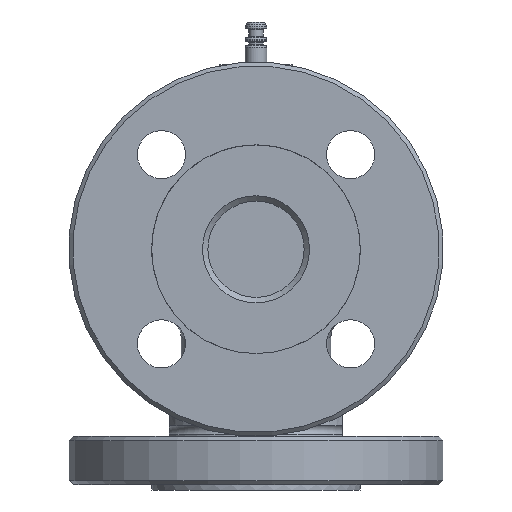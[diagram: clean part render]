
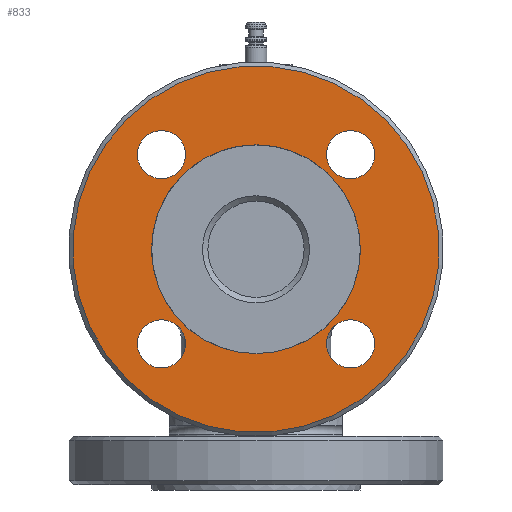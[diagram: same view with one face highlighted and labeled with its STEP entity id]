
A CAD part, left-side view. The second image highlights one B-rep face of the part: STEP entity #833.
In plain terms, the highlighted planar face has unit normal (-1, 0, 0).
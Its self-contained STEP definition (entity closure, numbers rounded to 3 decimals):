
#833=ADVANCED_FACE('',(#1166,#1167,#1168,#1169,#1170,#1171),#922,.T.);
#922=PLANE('',#3725);
#1166=FACE_BOUND('',#1546,.T.);
#1167=FACE_BOUND('',#1547,.T.);
#1168=FACE_BOUND('',#1548,.T.);
#1169=FACE_BOUND('',#1549,.T.);
#1170=FACE_BOUND('',#1550,.T.);
#1171=FACE_BOUND('',#1551,.T.);
#1546=EDGE_LOOP('',(#2302));
#1547=EDGE_LOOP('',(#2303));
#1548=EDGE_LOOP('',(#2304));
#1549=EDGE_LOOP('',(#2305));
#1550=EDGE_LOOP('',(#2306));
#1551=EDGE_LOOP('',(#2307));
#2302=ORIENTED_EDGE('',*,*,#3076,.T.);
#2303=ORIENTED_EDGE('',*,*,#3077,.F.);
#2304=ORIENTED_EDGE('',*,*,#3078,.T.);
#2305=ORIENTED_EDGE('',*,*,#3079,.T.);
#2306=ORIENTED_EDGE('',*,*,#3080,.T.);
#2307=ORIENTED_EDGE('',*,*,#3081,.T.);
#2685=VERTEX_POINT('',#11631);
#2686=VERTEX_POINT('',#11633);
#2687=VERTEX_POINT('',#11635);
#2688=VERTEX_POINT('',#11637);
#2689=VERTEX_POINT('',#11639);
#2690=VERTEX_POINT('',#11641);
#3076=EDGE_CURVE('',#2685,#2685,#3316,.T.);
#3077=EDGE_CURVE('',#2686,#2686,#3317,.T.);
#3078=EDGE_CURVE('',#2687,#2687,#3318,.T.);
#3079=EDGE_CURVE('',#2688,#2688,#3319,.T.);
#3080=EDGE_CURVE('',#2689,#2689,#3320,.T.);
#3081=EDGE_CURVE('',#2690,#2690,#3321,.T.);
#3316=CIRCLE('',#3719,68.5);
#3317=CIRCLE('',#3720,39.);
#3318=CIRCLE('',#3721,9.);
#3319=CIRCLE('',#3722,9.);
#3320=CIRCLE('',#3723,9.);
#3321=CIRCLE('',#3724,9.);
#3719=AXIS2_PLACEMENT_3D('',#11630,#4589,#4590);
#3720=AXIS2_PLACEMENT_3D('',#11632,#4591,#4592);
#3721=AXIS2_PLACEMENT_3D('',#11634,#4593,#4594);
#3722=AXIS2_PLACEMENT_3D('',#11636,#4595,#4596);
#3723=AXIS2_PLACEMENT_3D('',#11638,#4597,#4598);
#3724=AXIS2_PLACEMENT_3D('',#11640,#4599,#4600);
#3725=AXIS2_PLACEMENT_3D('',#11642,#4601,#4602);
#4589=DIRECTION('',(-1.,0.,0.));
#4590=DIRECTION('',(0.,0.707,0.707));
#4591=DIRECTION('',(-1.,0.,0.));
#4592=DIRECTION('',(0.,0.707,0.707));
#4593=DIRECTION('',(1.,0.,0.));
#4594=DIRECTION('',(0.,-0.707,0.707));
#4595=DIRECTION('',(1.,0.,0.));
#4596=DIRECTION('',(0.,0.707,0.707));
#4597=DIRECTION('',(1.,0.,0.));
#4598=DIRECTION('',(0.,0.707,-0.707));
#4599=DIRECTION('',(1.,0.,0.));
#4600=DIRECTION('',(0.,-0.707,-0.707));
#4601=DIRECTION('',(-1.,0.,0.));
#4602=DIRECTION('',(0.,0.707,0.707));
#11630=CARTESIAN_POINT('',(12.,0.,100.));
#11631=CARTESIAN_POINT('',(12.,48.437,148.437));
#11632=CARTESIAN_POINT('',(12.,0.,100.));
#11633=CARTESIAN_POINT('',(12.,27.577,127.577));
#11634=CARTESIAN_POINT('',(12.,35.355,135.355));
#11635=CARTESIAN_POINT('',(12.,28.991,141.719));
#11636=CARTESIAN_POINT('',(12.,35.355,64.645));
#11637=CARTESIAN_POINT('',(12.,41.719,71.009));
#11638=CARTESIAN_POINT('',(12.,-35.355,64.645));
#11639=CARTESIAN_POINT('',(12.,-28.991,58.281));
#11640=CARTESIAN_POINT('',(12.,-35.355,135.355));
#11641=CARTESIAN_POINT('',(12.,-41.719,128.991));
#11642=CARTESIAN_POINT('',(12.,0.,100.));
